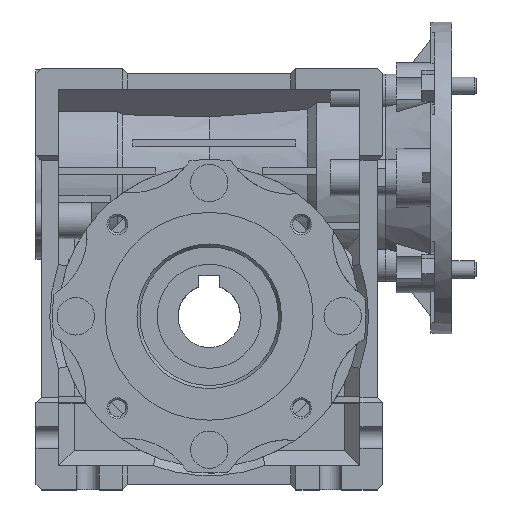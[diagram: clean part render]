
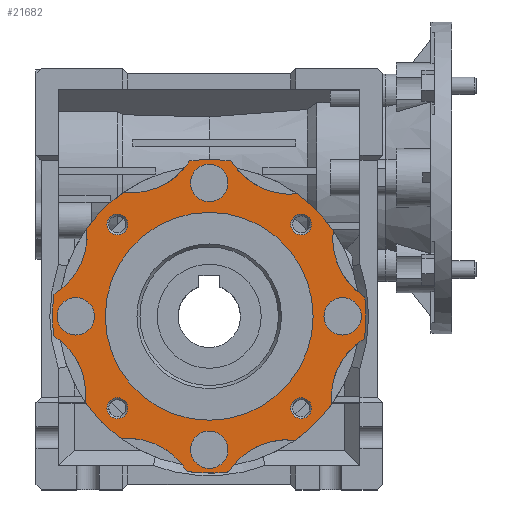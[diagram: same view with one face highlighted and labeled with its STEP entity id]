
A CAD part, top view. The second image highlights one B-rep face of the part: STEP entity #21682.
In plain terms, the highlighted planar face has unit normal (0, 0, 1) as drawn and (-1, 0, 0) by its records, which use the part's own axes.
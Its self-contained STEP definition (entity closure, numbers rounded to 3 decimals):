
#717=CIRCLE('',#22518,43.5);
#721=CIRCLE('',#22523,43.5);
#726=CIRCLE('',#22529,43.5);
#885=CIRCLE('',#22927,43.5);
#886=CIRCLE('',#22929,20.);
#887=CIRCLE('',#22931,20.);
#888=CIRCLE('',#22933,20.);
#889=CIRCLE('',#22935,20.);
#890=CIRCLE('',#22937,20.);
#891=CIRCLE('',#22939,20.);
#892=CIRCLE('',#22941,20.);
#893=CIRCLE('',#22943,20.);
#894=CIRCLE('',#22945,45.25);
#895=CIRCLE('',#22947,45.25);
#896=CIRCLE('',#22949,45.25);
#897=CIRCLE('',#22951,45.25);
#898=CIRCLE('',#22953,3.);
#899=CIRCLE('',#22954,3.);
#900=CIRCLE('',#22955,3.);
#901=CIRCLE('',#22956,3.);
#902=CIRCLE('',#22957,5.4);
#903=CIRCLE('',#22958,5.4);
#904=CIRCLE('',#22959,5.4);
#905=CIRCLE('',#22960,5.4);
#906=CIRCLE('',#22961,30.);
#3376=ORIENTED_EDGE('',*,*,#7166,.T.);
#3377=ORIENTED_EDGE('',*,*,#7167,.T.);
#3378=ORIENTED_EDGE('',*,*,#7168,.T.);
#3379=ORIENTED_EDGE('',*,*,#7169,.T.);
#3380=ORIENTED_EDGE('',*,*,#7170,.T.);
#3381=ORIENTED_EDGE('',*,*,#7171,.T.);
#3382=ORIENTED_EDGE('',*,*,#7172,.T.);
#3383=ORIENTED_EDGE('',*,*,#7173,.T.);
#3384=ORIENTED_EDGE('',*,*,#7174,.T.);
#3385=ORIENTED_EDGE('',*,*,#7146,.T.);
#3386=ORIENTED_EDGE('',*,*,#6543,.F.);
#3387=ORIENTED_EDGE('',*,*,#7149,.T.);
#3388=ORIENTED_EDGE('',*,*,#7162,.F.);
#3389=ORIENTED_EDGE('',*,*,#7150,.T.);
#3390=ORIENTED_EDGE('',*,*,#6523,.F.);
#3391=ORIENTED_EDGE('',*,*,#7153,.T.);
#3392=ORIENTED_EDGE('',*,*,#7163,.F.);
#3393=ORIENTED_EDGE('',*,*,#7154,.T.);
#3394=ORIENTED_EDGE('',*,*,#6531,.F.);
#3395=ORIENTED_EDGE('',*,*,#7157,.T.);
#3396=ORIENTED_EDGE('',*,*,#7164,.F.);
#3397=ORIENTED_EDGE('',*,*,#7158,.T.);
#3398=ORIENTED_EDGE('',*,*,#7142,.F.);
#3399=ORIENTED_EDGE('',*,*,#7161,.T.);
#3400=ORIENTED_EDGE('',*,*,#7165,.F.);
#6523=EDGE_CURVE('',#8752,#8753,#717,.T.);
#6531=EDGE_CURVE('',#8760,#8761,#721,.T.);
#6543=EDGE_CURVE('',#8772,#8773,#726,.T.);
#7142=EDGE_CURVE('',#9090,#9091,#885,.T.);
#7146=EDGE_CURVE('',#9092,#8773,#886,.T.);
#7149=EDGE_CURVE('',#8772,#9093,#887,.T.);
#7150=EDGE_CURVE('',#9094,#8753,#888,.T.);
#7153=EDGE_CURVE('',#8752,#9095,#889,.T.);
#7154=EDGE_CURVE('',#9096,#8761,#890,.T.);
#7157=EDGE_CURVE('',#8760,#9097,#891,.T.);
#7158=EDGE_CURVE('',#9098,#9091,#892,.T.);
#7161=EDGE_CURVE('',#9090,#9099,#893,.T.);
#7162=EDGE_CURVE('',#9094,#9093,#894,.T.);
#7163=EDGE_CURVE('',#9096,#9095,#895,.T.);
#7164=EDGE_CURVE('',#9098,#9097,#896,.T.);
#7165=EDGE_CURVE('',#9092,#9099,#897,.T.);
#7166=EDGE_CURVE('',#9100,#9100,#898,.T.);
#7167=EDGE_CURVE('',#9101,#9101,#899,.T.);
#7168=EDGE_CURVE('',#9102,#9102,#900,.T.);
#7169=EDGE_CURVE('',#9103,#9103,#901,.T.);
#7170=EDGE_CURVE('',#9104,#9104,#902,.T.);
#7171=EDGE_CURVE('',#9105,#9105,#903,.T.);
#7172=EDGE_CURVE('',#9106,#9106,#904,.T.);
#7173=EDGE_CURVE('',#9107,#9107,#905,.T.);
#7174=EDGE_CURVE('',#9108,#9108,#906,.T.);
#8752=VERTEX_POINT('',#29881);
#8753=VERTEX_POINT('',#29883);
#8760=VERTEX_POINT('',#29898);
#8761=VERTEX_POINT('',#29900);
#8772=VERTEX_POINT('',#29926);
#8773=VERTEX_POINT('',#29928);
#9090=VERTEX_POINT('',#31231);
#9091=VERTEX_POINT('',#31233);
#9092=VERTEX_POINT('',#31239);
#9093=VERTEX_POINT('',#31243);
#9094=VERTEX_POINT('',#31247);
#9095=VERTEX_POINT('',#31251);
#9096=VERTEX_POINT('',#31255);
#9097=VERTEX_POINT('',#31259);
#9098=VERTEX_POINT('',#31263);
#9099=VERTEX_POINT('',#31267);
#9100=VERTEX_POINT('',#31279);
#9101=VERTEX_POINT('',#31281);
#9102=VERTEX_POINT('',#31283);
#9103=VERTEX_POINT('',#31285);
#9104=VERTEX_POINT('',#31287);
#9105=VERTEX_POINT('',#31289);
#9106=VERTEX_POINT('',#31291);
#9107=VERTEX_POINT('',#31293);
#9108=VERTEX_POINT('',#31295);
#13042=EDGE_LOOP('',(#3376));
#13043=EDGE_LOOP('',(#3377));
#13044=EDGE_LOOP('',(#3378));
#13045=EDGE_LOOP('',(#3379));
#13046=EDGE_LOOP('',(#3380));
#13047=EDGE_LOOP('',(#3381));
#13048=EDGE_LOOP('',(#3382));
#13049=EDGE_LOOP('',(#3383));
#13050=EDGE_LOOP('',(#3384));
#13051=EDGE_LOOP('',(#3385,#3386,#3387,#3388,#3389,#3390,#3391,#3392,#3393,
#3394,#3395,#3396,#3397,#3398,#3399,#3400));
#14063=FACE_BOUND('',#13042,.T.);
#14064=FACE_BOUND('',#13043,.T.);
#14065=FACE_BOUND('',#13044,.T.);
#14066=FACE_BOUND('',#13045,.T.);
#14067=FACE_BOUND('',#13046,.T.);
#14068=FACE_BOUND('',#13047,.T.);
#14069=FACE_BOUND('',#13048,.T.);
#14070=FACE_BOUND('',#13049,.T.);
#14071=FACE_BOUND('',#13050,.T.);
#14072=FACE_BOUND('',#13051,.T.);
#14957=PLANE('',#22952);
#21682=ADVANCED_FACE('',(#14063,#14064,#14065,#14066,#14067,#14068,#14069,
#14070,#14071,#14072),#14957,.F.);
#22518=AXIS2_PLACEMENT_3D('',#29882,#24777,#24778);
#22523=AXIS2_PLACEMENT_3D('',#29899,#24791,#24792);
#22529=AXIS2_PLACEMENT_3D('',#29927,#24809,#24810);
#22927=AXIS2_PLACEMENT_3D('',#31232,#25986,#25987);
#22929=AXIS2_PLACEMENT_3D('',#31238,#25993,#25994);
#22931=AXIS2_PLACEMENT_3D('',#31244,#25999,#26000);
#22933=AXIS2_PLACEMENT_3D('',#31246,#26003,#26004);
#22935=AXIS2_PLACEMENT_3D('',#31252,#26009,#26010);
#22937=AXIS2_PLACEMENT_3D('',#31254,#26013,#26014);
#22939=AXIS2_PLACEMENT_3D('',#31260,#26019,#26020);
#22941=AXIS2_PLACEMENT_3D('',#31262,#26023,#26024);
#22943=AXIS2_PLACEMENT_3D('',#31268,#26029,#26030);
#22945=AXIS2_PLACEMENT_3D('',#31270,#26033,#26034);
#22947=AXIS2_PLACEMENT_3D('',#31272,#26037,#26038);
#22949=AXIS2_PLACEMENT_3D('',#31274,#26041,#26042);
#22951=AXIS2_PLACEMENT_3D('',#31276,#26045,#26046);
#22952=AXIS2_PLACEMENT_3D('',#31277,#26047,#26048);
#22953=AXIS2_PLACEMENT_3D('',#31278,#26049,#26050);
#22954=AXIS2_PLACEMENT_3D('',#31280,#26051,#26052);
#22955=AXIS2_PLACEMENT_3D('',#31282,#26053,#26054);
#22956=AXIS2_PLACEMENT_3D('',#31284,#26055,#26056);
#22957=AXIS2_PLACEMENT_3D('',#31286,#26057,#26058);
#22958=AXIS2_PLACEMENT_3D('',#31288,#26059,#26060);
#22959=AXIS2_PLACEMENT_3D('',#31290,#26061,#26062);
#22960=AXIS2_PLACEMENT_3D('',#31292,#26063,#26064);
#22961=AXIS2_PLACEMENT_3D('',#31294,#26065,#26066);
#24777=DIRECTION('',(1.,0.,0.));
#24778=DIRECTION('',(0.,0.,-1.));
#24791=DIRECTION('',(1.,0.,0.));
#24792=DIRECTION('',(0.,0.,-1.));
#24809=DIRECTION('',(1.,0.,0.));
#24810=DIRECTION('',(0.,0.,-1.));
#25986=DIRECTION('',(1.,0.,0.));
#25987=DIRECTION('',(0.,0.,-1.));
#25993=DIRECTION('',(1.,0.,0.));
#25994=DIRECTION('',(0.,0.,-1.));
#25999=DIRECTION('',(1.,0.,0.));
#26000=DIRECTION('',(0.,0.,-1.));
#26003=DIRECTION('',(1.,0.,0.));
#26004=DIRECTION('',(0.,0.,-1.));
#26009=DIRECTION('',(1.,0.,0.));
#26010=DIRECTION('',(0.,0.,-1.));
#26013=DIRECTION('',(1.,0.,0.));
#26014=DIRECTION('',(0.,0.,-1.));
#26019=DIRECTION('',(1.,0.,0.));
#26020=DIRECTION('',(0.,0.,-1.));
#26023=DIRECTION('',(1.,0.,0.));
#26024=DIRECTION('',(0.,0.,-1.));
#26029=DIRECTION('',(1.,0.,0.));
#26030=DIRECTION('',(0.,0.,-1.));
#26033=DIRECTION('',(1.,0.,0.));
#26034=DIRECTION('',(0.,0.,-1.));
#26037=DIRECTION('',(1.,0.,0.));
#26038=DIRECTION('',(0.,0.,-1.));
#26041=DIRECTION('',(1.,0.,0.));
#26042=DIRECTION('',(0.,0.,-1.));
#26045=DIRECTION('',(1.,0.,0.));
#26046=DIRECTION('',(0.,0.,-1.));
#26047=DIRECTION('',(1.,0.,0.));
#26048=DIRECTION('',(0.,0.,-1.));
#26049=DIRECTION('',(1.,0.,0.));
#26050=DIRECTION('',(0.,0.,-1.));
#26051=DIRECTION('',(1.,0.,0.));
#26052=DIRECTION('',(0.,0.,-1.));
#26053=DIRECTION('',(1.,0.,0.));
#26054=DIRECTION('',(0.,0.,-1.));
#26055=DIRECTION('',(1.,0.,0.));
#26056=DIRECTION('',(0.,0.,-1.));
#26057=DIRECTION('',(1.,0.,0.));
#26058=DIRECTION('',(0.,0.,-1.));
#26059=DIRECTION('',(1.,0.,0.));
#26060=DIRECTION('',(0.,0.,-1.));
#26061=DIRECTION('',(1.,0.,0.));
#26062=DIRECTION('',(0.,0.,-1.));
#26063=DIRECTION('',(1.,0.,0.));
#26064=DIRECTION('',(0.,0.,-1.));
#26065=DIRECTION('',(1.,0.,0.));
#26066=DIRECTION('',(0.,0.,-1.));
#29881=CARTESIAN_POINT('',(-36.5,25.385,-35.325));
#29882=CARTESIAN_POINT('',(-36.5,0.,0.));
#29883=CARTESIAN_POINT('',(-36.5,35.762,-24.765));
#29898=CARTESIAN_POINT('',(-36.5,-35.325,-25.385));
#29899=CARTESIAN_POINT('',(-36.5,0.,0.));
#29900=CARTESIAN_POINT('',(-36.5,-24.765,-35.762));
#29926=CARTESIAN_POINT('',(-36.5,35.325,25.385));
#29927=CARTESIAN_POINT('',(-36.5,0.,0.));
#29928=CARTESIAN_POINT('',(-36.5,24.765,35.762));
#31231=CARTESIAN_POINT('',(-36.5,-25.385,35.325));
#31232=CARTESIAN_POINT('',(-36.5,0.,0.));
#31233=CARTESIAN_POINT('',(-36.5,-35.762,24.765));
#31238=CARTESIAN_POINT('',(-36.5,22.476,55.631));
#31239=CARTESIAN_POINT('',(-36.5,5.597,44.902));
#31243=CARTESIAN_POINT('',(-36.5,44.798,6.38));
#31244=CARTESIAN_POINT('',(-36.5,55.23,23.444));
#31246=CARTESIAN_POINT('',(-36.5,55.631,-22.476));
#31247=CARTESIAN_POINT('',(-36.5,44.902,-5.597));
#31251=CARTESIAN_POINT('',(-36.5,6.38,-44.798));
#31252=CARTESIAN_POINT('',(-36.5,23.444,-55.23));
#31254=CARTESIAN_POINT('',(-36.5,-22.476,-55.631));
#31255=CARTESIAN_POINT('',(-36.5,-5.597,-44.902));
#31259=CARTESIAN_POINT('',(-36.5,-44.798,-6.38));
#31260=CARTESIAN_POINT('',(-36.5,-55.23,-23.444));
#31262=CARTESIAN_POINT('',(-36.5,-55.631,22.476));
#31263=CARTESIAN_POINT('',(-36.5,-44.902,5.597));
#31267=CARTESIAN_POINT('',(-36.5,-6.38,44.798));
#31268=CARTESIAN_POINT('',(-36.5,-23.444,55.23));
#31270=CARTESIAN_POINT('',(-36.5,0.,0.));
#31272=CARTESIAN_POINT('',(-36.5,0.,0.));
#31274=CARTESIAN_POINT('',(-36.5,0.,0.));
#31276=CARTESIAN_POINT('',(-36.5,0.,0.));
#31277=CARTESIAN_POINT('',(-36.5,11.238,27.816));
#31278=CARTESIAN_POINT('',(-36.5,26.517,26.517));
#31279=CARTESIAN_POINT('',(-36.5,26.517,23.517));
#31280=CARTESIAN_POINT('',(-36.5,-26.517,26.517));
#31281=CARTESIAN_POINT('',(-36.5,-26.517,23.517));
#31282=CARTESIAN_POINT('',(-36.5,-26.517,-26.517));
#31283=CARTESIAN_POINT('',(-36.5,-26.517,-29.517));
#31284=CARTESIAN_POINT('',(-36.5,26.517,-26.517));
#31285=CARTESIAN_POINT('',(-36.5,26.517,-29.517));
#31286=CARTESIAN_POINT('',(-36.5,0.,38.5));
#31287=CARTESIAN_POINT('',(-36.5,0.,33.1));
#31288=CARTESIAN_POINT('',(-36.5,-38.5,0.));
#31289=CARTESIAN_POINT('',(-36.5,-38.5,-5.4));
#31290=CARTESIAN_POINT('',(-36.5,0.,-38.5));
#31291=CARTESIAN_POINT('',(-36.5,0.,-43.9));
#31292=CARTESIAN_POINT('',(-36.5,38.5,0.));
#31293=CARTESIAN_POINT('',(-36.5,38.5,-5.4));
#31294=CARTESIAN_POINT('',(-36.5,0.,0.));
#31295=CARTESIAN_POINT('',(-36.5,0.,-30.));
